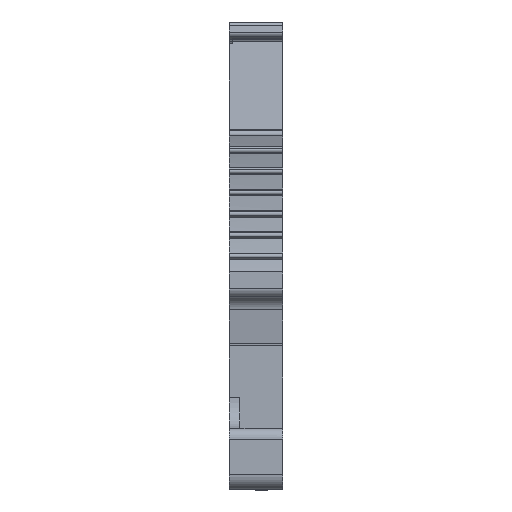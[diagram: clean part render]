
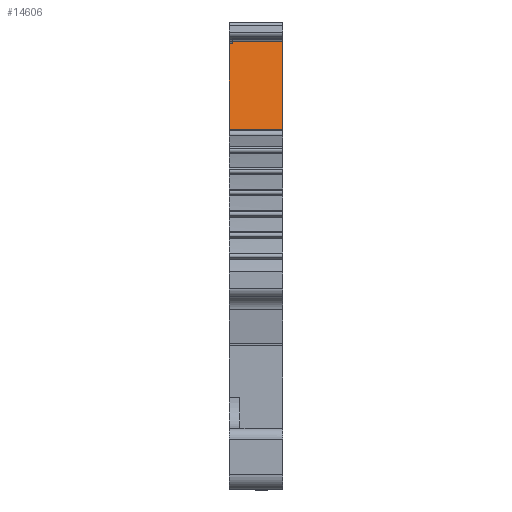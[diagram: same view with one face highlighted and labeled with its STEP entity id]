
A CAD part, front view. The second image highlights one B-rep face of the part: STEP entity #14606.
In plain terms, the highlighted planar face has unit normal (0, -0.985, 0.174).
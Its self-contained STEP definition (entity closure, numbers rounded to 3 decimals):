
#214 = LINE ( 'NONE', #16919, #11054 ) ;
#304 = DIRECTION ( 'NONE',  ( 0., 0.174, 0.985 ) ) ;
#1152 = CARTESIAN_POINT ( 'NONE',  ( 3.5, -7.425, 23.207 ) ) ;
#1252 = CARTESIAN_POINT ( 'NONE',  ( 1.75, -6.893, 26.223 ) ) ;
#1811 = CARTESIAN_POINT ( 'NONE',  ( 0.2, -6.362, 29.239 ) ) ;
#2052 = CARTESIAN_POINT ( 'NONE',  ( 3.5, -7.425, 23.207 ) ) ;
#2735 = LINE ( 'NONE', #1152, #22337 ) ;
#2826 = CARTESIAN_POINT ( 'NONE',  ( 0., -7.399, 23.355 ) ) ;
#3831 = EDGE_CURVE ( 'NONE', #8001, #4434, #10224, .T. ) ;
#4045 = EDGE_CURVE ( 'NONE', #8001, #6017, #214, .T. ) ;
#4332 = DIRECTION ( 'NONE',  ( 0., 0.174, 0.985 ) ) ;
#4434 = VERTEX_POINT ( 'NONE', #16886 ) ;
#4443 = CARTESIAN_POINT ( 'NONE',  ( 0., -7.399, 23.355 ) ) ;
#4587 = DIRECTION ( 'NONE',  ( -1., 0., 0. ) ) ;
#4706 = CARTESIAN_POINT ( 'NONE',  ( 3.5, -6.362, 29.239 ) ) ;
#4937 = EDGE_CURVE ( 'NONE', #20176, #5694, #12055, .T. ) ;
#5295 = VECTOR ( 'NONE', #15472, 1000. ) ;
#5694 = VERTEX_POINT ( 'NONE', #4706 ) ;
#6017 = VERTEX_POINT ( 'NONE', #2826 ) ;
#6167 = LINE ( 'NONE', #21014, #7667 ) ;
#6584 = EDGE_CURVE ( 'NONE', #12567, #13233, #2735, .T. ) ;
#6713 = ORIENTED_EDGE ( 'NONE', *, *, #11973, .F. ) ;
#6933 = ORIENTED_EDGE ( 'NONE', *, *, #4937, .F. ) ;
#7149 = VECTOR ( 'NONE', #14121, 1000. ) ;
#7287 = VERTEX_POINT ( 'NONE', #20005 ) ;
#7667 = VECTOR ( 'NONE', #4332, 1000. ) ;
#7981 = CARTESIAN_POINT ( 'NONE',  ( 3.5, -7.425, 23.207 ) ) ;
#8001 = VERTEX_POINT ( 'NONE', #23345 ) ;
#10224 = LINE ( 'NONE', #16066, #7149 ) ;
#11054 = VECTOR ( 'NONE', #13130, 1000. ) ;
#11356 = ORIENTED_EDGE ( 'NONE', *, *, #3831, .F. ) ;
#11571 = LINE ( 'NONE', #19110, #5295 ) ;
#11864 = DIRECTION ( 'NONE',  ( 1., 0., 0. ) ) ;
#11973 = EDGE_CURVE ( 'NONE', #4434, #20176, #6167, .T. ) ;
#12055 = LINE ( 'NONE', #1811, #16184 ) ;
#12057 = AXIS2_PLACEMENT_3D ( 'NONE', #1252, #18193, #12454 ) ;
#12308 = ORIENTED_EDGE ( 'NONE', *, *, #17226, .T. ) ;
#12454 = DIRECTION ( 'NONE',  ( -1., 0., 0. ) ) ;
#12567 = VERTEX_POINT ( 'NONE', #2052 ) ;
#13130 = DIRECTION ( 'NONE',  ( 0., -0.174, -0.985 ) ) ;
#13233 = VERTEX_POINT ( 'NONE', #16867 ) ;
#14030 = VECTOR ( 'NONE', #304, 1000. ) ;
#14121 = DIRECTION ( 'NONE',  ( 1., 0., 0. ) ) ;
#14606 = ADVANCED_FACE ( 'NONE', ( #20002 ), #17952, .T. ) ;
#14765 = ORIENTED_EDGE ( 'NONE', *, *, #4045, .T. ) ;
#15170 = LINE ( 'NONE', #7981, #14030 ) ;
#15287 = LINE ( 'NONE', #4443, #16103 ) ;
#15472 = DIRECTION ( 'NONE',  ( 0., 0.174, 0.985 ) ) ;
#15497 = EDGE_LOOP ( 'NONE', ( #22248, #22594, #21326, #6933, #6713, #11356, #14765, #12308 ) ) ;
#16066 = CARTESIAN_POINT ( 'NONE',  ( 0., -6.388, 29.092 ) ) ;
#16103 = VECTOR ( 'NONE', #11864, 1000. ) ;
#16184 = VECTOR ( 'NONE', #20205, 1000. ) ;
#16867 = CARTESIAN_POINT ( 'NONE',  ( 0.2, -7.425, 23.207 ) ) ;
#16886 = CARTESIAN_POINT ( 'NONE',  ( 0.2, -6.388, 29.092 ) ) ;
#16919 = CARTESIAN_POINT ( 'NONE',  ( 0., -6.388, 29.092 ) ) ;
#17226 = EDGE_CURVE ( 'NONE', #6017, #7287, #15287, .T. ) ;
#17952 = PLANE ( 'NONE',  #12057 ) ;
#18089 = EDGE_CURVE ( 'NONE', #13233, #7287, #11571, .T. ) ;
#18193 = DIRECTION ( 'NONE',  ( 0., -0.985, 0.174 ) ) ;
#19110 = CARTESIAN_POINT ( 'NONE',  ( 0.2, -7.425, 23.207 ) ) ;
#20002 = FACE_OUTER_BOUND ( 'NONE', #15497, .T. ) ;
#20005 = CARTESIAN_POINT ( 'NONE',  ( 0.2, -7.399, 23.355 ) ) ;
#20176 = VERTEX_POINT ( 'NONE', #22910 ) ;
#20205 = DIRECTION ( 'NONE',  ( 1., 0., 0. ) ) ;
#21014 = CARTESIAN_POINT ( 'NONE',  ( 0.2, -6.388, 29.092 ) ) ;
#21326 = ORIENTED_EDGE ( 'NONE', *, *, #22116, .T. ) ;
#22116 = EDGE_CURVE ( 'NONE', #12567, #5694, #15170, .T. ) ;
#22248 = ORIENTED_EDGE ( 'NONE', *, *, #18089, .F. ) ;
#22337 = VECTOR ( 'NONE', #4587, 1000. ) ;
#22594 = ORIENTED_EDGE ( 'NONE', *, *, #6584, .F. ) ;
#22910 = CARTESIAN_POINT ( 'NONE',  ( 0.2, -6.362, 29.239 ) ) ;
#23345 = CARTESIAN_POINT ( 'NONE',  ( 0., -6.388, 29.092 ) ) ;
